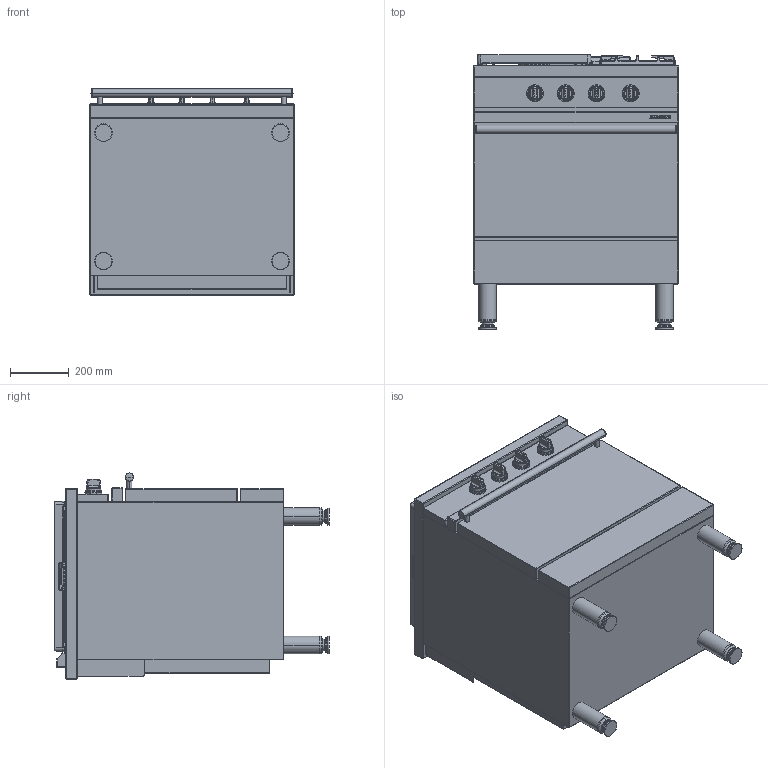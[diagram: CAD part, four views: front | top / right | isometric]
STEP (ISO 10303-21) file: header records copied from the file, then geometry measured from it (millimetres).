
FILE_DESCRIPTION((''),'2;1');
FILE_NAME('CG731CF_EXPORT_STEP_ASM','2017-11-22T',('r.avril'),(''),'PRO/ENGINEER BY PARAMETRIC TECHNOLOGY CORPORATION, 2014200','PRO/ENGINEER BY PARAMETRIC TECHNOLOGY CORPORATION, 2014200','');
FILE_SCHEMA(('AP203_CONFIGURATION_CONTROLLED_3D_DESIGN_OF_MECHANICAL_PARTS_AND_ASSEMBLIES_MIM_LF { 1 0 10303 403 2 1 2 }'));
Products named in the file (14): FOURNEAUX_AMB_700_EXPORT_STEP; TABLE_700_CLASSIQUE_3F; 5KW; 1_5KW; 3KW; 6537024; 65149005; 90000487_ASM; 65062008; 65062012; 90000549_ASM; TABLE_700_TRADITION_ASM; MANETTE_AMB_EXPORT_STEP; CG731CF_EXPORT_STEP_ASM
Assembly tree (23 placements, depth 4):
  CG731CF_EXPORT_STEP_ASM
    FOURNEAUX_AMB_700_EXPORT_STEP
    TABLE_700_TRADITION_ASM
      TABLE_700_CLASSIQUE_3F
      5KW
      1_5KW
      3KW
      90000487_ASM
        6537024
        65149005  x4
      90000549_ASM
        65062008
        65062012
        65149005  x4
    MANETTE_AMB_EXPORT_STEP  x4
Bounding box: 700 x 937 x 703 mm (x, y, z)
Volume: 320172486.9 mm3; surface area: 6127412.3 mm2
Topology: 34 solids, 52 shells, 3899 faces, 10549 edges, 7099 vertices
Faces by surface type: plane 1840, cylinder 901, bspline 616, sphere 178, torus 174, cone 170, extrusion 20
Entity records: 166212 total; most frequent: CARTESIAN_POINT 47774, ORIENTED_EDGE 18208, DIRECTION 16468, EDGE_CURVE 9329, PRESENTATION_STYLE_ASSIGNMENT 8768, STYLED_ITEM 8768, CURVE_STYLE 8562, VECTOR 6310
